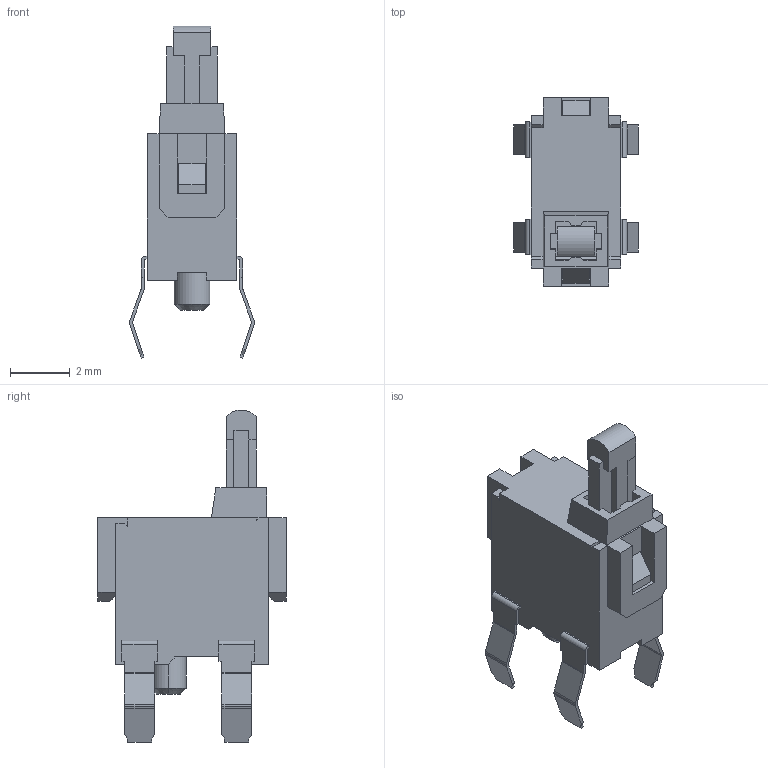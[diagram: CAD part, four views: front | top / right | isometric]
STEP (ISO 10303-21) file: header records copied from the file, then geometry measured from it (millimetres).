
FILE_DESCRIPTION (( 'STEP AP214' ), '1' );
FILE_NAME ('SPPB512300.STEP', '2010-02-05T08:10:50', ( ' ' ), ( '' ), 'SwSTEP 2.0', 'SolidWorks 2007', '' );
FILE_SCHEMA (( 'AUTOMOTIVE_DESIGN' ));
Length unit declared in the file: millimetre
Products named in the file (1): SPPB512300
Bounding box: 4.18 x 6.3 x 11.1 mm (x, y, z)
Volume: 86.3 mm3; surface area: 202.7 mm2
Topology: 1 solids, 1 shells, 242 faces, 694 edges, 460 vertices
Faces by surface type: plane 201, cylinder 39, cone 2
Entity records: 10498 total; most frequent: CARTESIAN_POINT 1398, ORIENTED_EDGE 1388, DIRECTION 1259, EDGE_CURVE 694, VECTOR 613, LINE 613, VERTEX_POINT 460, AXIS2_PLACEMENT_3D 323
